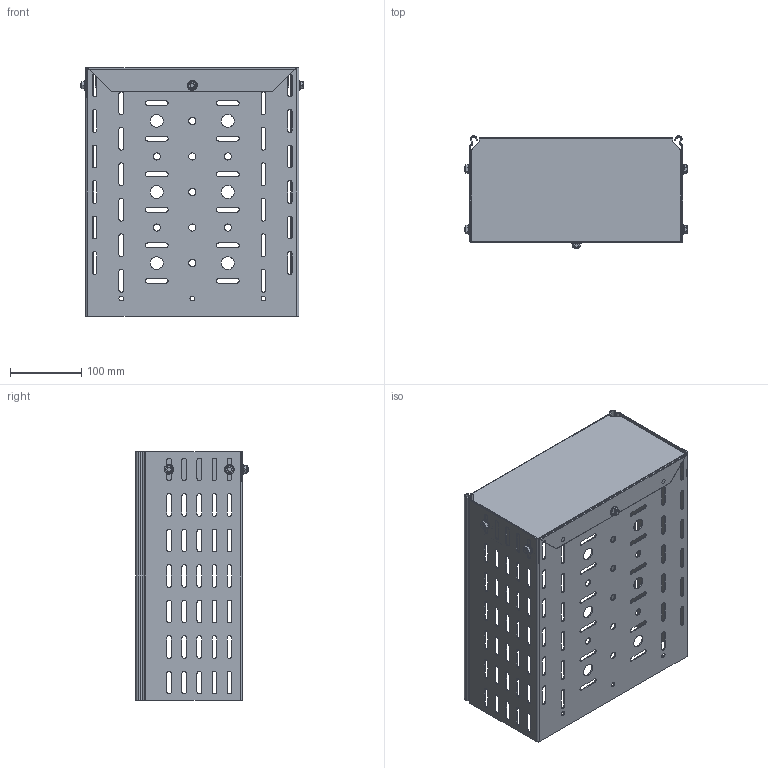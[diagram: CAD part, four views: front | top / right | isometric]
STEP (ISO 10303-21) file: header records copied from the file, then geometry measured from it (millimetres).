
FILE_DESCRIPTION (( 'STEP AP214' ), '1' );
FILE_NAME ('ﾇﾒ+ﾓﾋ(ﾏ)_150.STEP', '2016-10-06T20:19:57', ( '' ), ( '' ), 'SwSTEP 2.0', 'SolidWorks 2016', '' );
FILE_SCHEMA (( 'AUTOMOTIVE_DESIGN' ));
Length unit declared in the file: millimetre
Products named in the file (5): pan head cross recess screw_din_ISO 7045 - M6 x 10 - Z --- 10N; ÇÒ_300å150; ÓË(Ï)-300õÍõ550_3000.1,5.300.150; ﾇﾒ+ﾓﾋ(ﾏ)_150; hex flange nut_din_Hexagon Flange Nut DIN 6923 - M6 - N
Assembly tree (12 placements, depth 2):
  ﾇﾒ+ﾓﾋ(ﾏ)_150
    ÓË(Ï)-300õÍõ550_3000.1,5.300.150
    ÇÒ_300å150
    pan head cross recess screw_din_ISO 7045 - M6 x 10 - Z --- 10N  x5
    hex flange nut_din_Hexagon Flange Nut DIN 6923 - M6 - N  x5
Bounding box: 314.79 x 158.5 x 350 mm (x, y, z)
Volume: 343248.6 mm3; surface area: 546448.3 mm2
Topology: 12 solids, 12 shells, 1024 faces, 2752 edges, 1747 vertices
Faces by surface type: plane 448, cylinder 414, cone 90, bspline 32, torus 30, sphere 10
Entity records: 25644 total; most frequent: CARTESIAN_POINT 4644, DIRECTION 4438, ORIENTED_EDGE 4268, EDGE_CURVE 2134, AXIS2_PLACEMENT_3D 1585, VERTEX_POINT 1383, VECTOR 1268, LINE 1268
